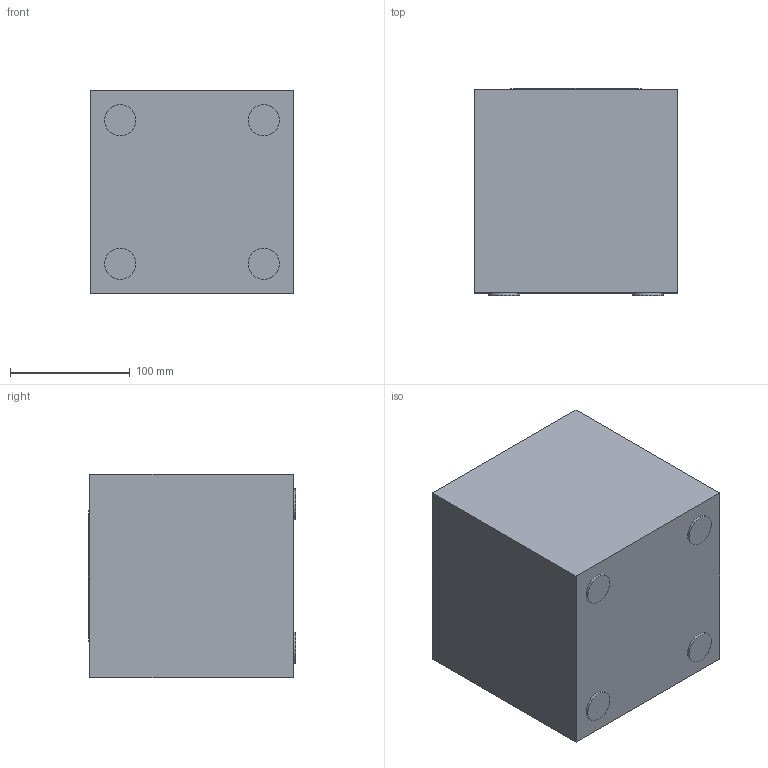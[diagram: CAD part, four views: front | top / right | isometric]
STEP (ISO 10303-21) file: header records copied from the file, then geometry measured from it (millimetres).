
FILE_DESCRIPTION(/* description */ (''),/* implementation_level */ '2;1');
FILE_NAME(/* name */ 'C:\Users\Giulia\Desktop\1067 - Q.stp',/* time_stamp */ '2015-04-23T10:22:54+02:00',/* author */ ('Giulia'),/* organization */ (''),/* preprocessor_version */ 'ST-DEVELOPER v15.6',/* originating_system */ 'Autodesk Inventor 2015',/* authorisation */ '');
FILE_SCHEMA (('AUTOMOTIVE_DESIGN { 1 0 10303 214 3 1 1 }'));
Length unit declared in the file: centimetre
Products named in the file (1): 1067 - Q
Bounding box: 170 x 173.26 x 170 mm (x, y, z)
Volume: 4000458.7 mm3; surface area: 270403.9 mm2
Topology: 2 solids, 6 shells, 47 faces, 80 edges, 51 vertices
Faces by surface type: plane 23, cylinder 16, torus 5, bspline 2, cone 1
Full cylindrical faces by diameter (mm): 1 x4, 9 x1, 26 x4, 27 x1, 31 x1, 97 x1, 97.8 x1, 99.4 x1, 100 x1, 109.4 x1
Entity records: 1071 total; most frequent: CARTESIAN_POINT 240, DIRECTION 182, ORIENTED_EDGE 108, AXIS2_PLACEMENT_3D 85, EDGE_LOOP 79, EDGE_CURVE 54, VERTEX_POINT 49, FACE_OUTER_BOUND 47
